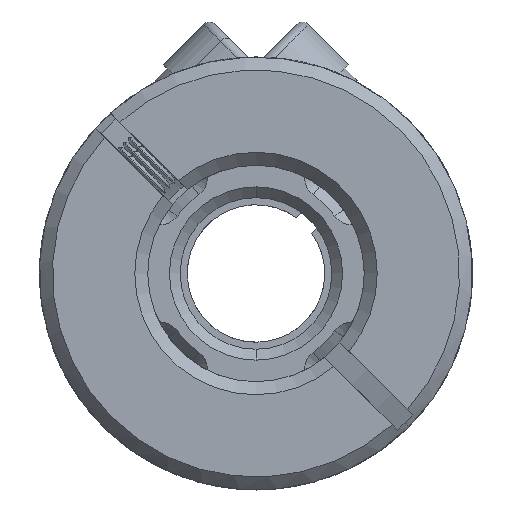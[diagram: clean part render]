
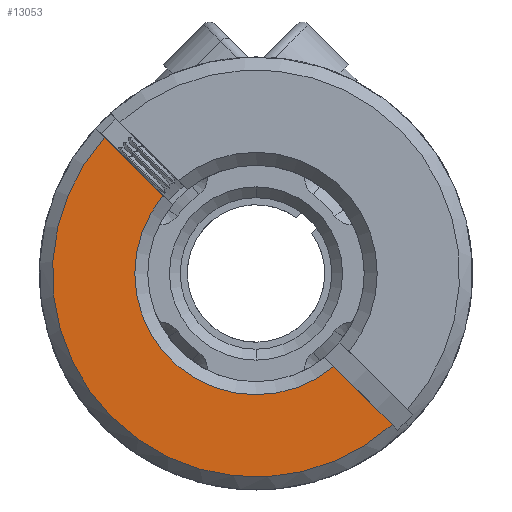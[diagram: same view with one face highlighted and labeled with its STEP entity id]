
A CAD part, front view. The second image highlights one B-rep face of the part: STEP entity #13053.
In plain terms, the highlighted planar face has unit normal (0, -1, 0).
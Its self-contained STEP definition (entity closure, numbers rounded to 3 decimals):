
#22 = CARTESIAN_POINT ( 'NONE',  ( 0.205, -11.2, -0.912 ) ) ;
#279 = VERTEX_POINT ( 'NONE', #3090 ) ;
#712 = AXIS2_PLACEMENT_3D ( 'NONE', #8957, #7684, #4265 ) ;
#733 = LINE ( 'NONE', #22, #12713 ) ;
#1760 = VERTEX_POINT ( 'NONE', #8592 ) ;
#1813 = EDGE_CURVE ( 'NONE', #3950, #1760, #8845, .T. ) ;
#2377 = PLANE ( 'NONE',  #7266 ) ;
#2428 = DIRECTION ( 'NONE',  ( -0.707, 0., 0.707 ) ) ;
#2490 = CARTESIAN_POINT ( 'NONE',  ( 0., -11.2, 0. ) ) ;
#3090 = CARTESIAN_POINT ( 'NONE',  ( -4.298, -11.2, 3.59 ) ) ;
#3950 = VERTEX_POINT ( 'NONE', #5881 ) ;
#4034 = ORIENTED_EDGE ( 'NONE', *, *, #7790, .T. ) ;
#4265 = DIRECTION ( 'NONE',  ( -0.707, 0., 0.707 ) ) ;
#4395 = CIRCLE ( 'NONE', #10457, 5.6 ) ;
#4775 = EDGE_CURVE ( 'NONE', #4831, #279, #4395, .T. ) ;
#4793 = DIRECTION ( 'NONE',  ( 0., -1., 0. ) ) ;
#4831 = VERTEX_POINT ( 'NONE', #9337 ) ;
#5194 = VECTOR ( 'NONE', #6784, 1000. ) ;
#5574 = LINE ( 'NONE', #10223, #5194 ) ;
#5772 = ORIENTED_EDGE ( 'NONE', *, *, #4775, .T. ) ;
#5881 = CARTESIAN_POINT ( 'NONE',  ( -6.991, -11.2, 6.284 ) ) ;
#6784 = DIRECTION ( 'NONE',  ( -0.707, 0., 0.707 ) ) ;
#6860 = EDGE_LOOP ( 'NONE', ( #12502, #12001, #4034, #5772 ) ) ;
#7266 = AXIS2_PLACEMENT_3D ( 'NONE', #10600, #4793, #2428 ) ;
#7684 = DIRECTION ( 'NONE',  ( 0., -1., 0. ) ) ;
#7790 = EDGE_CURVE ( 'NONE', #1760, #4831, #5574, .T. ) ;
#8592 = CARTESIAN_POINT ( 'NONE',  ( 6.284, -11.2, -6.991 ) ) ;
#8845 = CIRCLE ( 'NONE', #712, 9.4 ) ;
#8957 = CARTESIAN_POINT ( 'NONE',  ( 0., -11.2, 0. ) ) ;
#9337 = CARTESIAN_POINT ( 'NONE',  ( 3.59, -11.2, -4.298 ) ) ;
#10223 = CARTESIAN_POINT ( 'NONE',  ( -8.839, -11.2, 8.132 ) ) ;
#10457 = AXIS2_PLACEMENT_3D ( 'NONE', #2490, #10614, #11821 ) ;
#10472 = DIRECTION ( 'NONE',  ( -0.707, 0., 0.707 ) ) ;
#10600 = CARTESIAN_POINT ( 'NONE',  ( 45.083, -11.2, 25.627 ) ) ;
#10614 = DIRECTION ( 'NONE',  ( 0., 1., 0. ) ) ;
#11702 = EDGE_CURVE ( 'NONE', #279, #3950, #733, .T. ) ;
#11706 = FACE_OUTER_BOUND ( 'NONE', #6860, .T. ) ;
#11821 = DIRECTION ( 'NONE',  ( -0.707, 0., 0.707 ) ) ;
#12001 = ORIENTED_EDGE ( 'NONE', *, *, #1813, .T. ) ;
#12502 = ORIENTED_EDGE ( 'NONE', *, *, #11702, .T. ) ;
#12713 = VECTOR ( 'NONE', #10472, 1000. ) ;
#13053 = ADVANCED_FACE ( 'NONE', ( #11706 ), #2377, .T. ) ;
